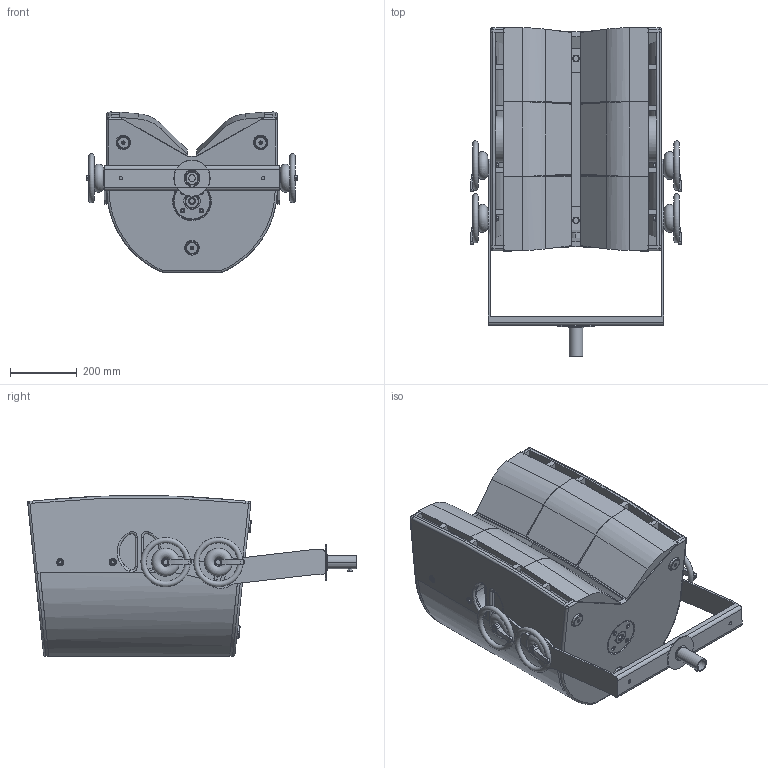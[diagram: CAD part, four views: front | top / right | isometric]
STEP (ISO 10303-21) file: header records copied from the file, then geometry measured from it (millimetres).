
FILE_DESCRIPTION (( 'STEP AP203' ), '1' );
FILE_NAME ('G3_Bracket-ver_01.STEP', '2012-10-16T11:20:23', ( 'Fabian' ), ( '' ), 'SwSTEP 2.0', 'SolidWorks 2009', '' );
FILE_SCHEMA (( 'CONFIG_CONTROL_DESIGN' ));
Products named in the file (31): G3_Bracket-ver_01; Imported88; Imported89; Imported95; Imported94; Imported96; Imported101; Imported102; Imported107; Imported108; Imported109; G3_Bracket-ver; Imported85; Imported86; Imported87; Imported90; Imported91; Imported92; Imported93; Imported97; Imported98; Imported99; Imported100; Imported103; Imported104; Imported105; Imported106; Imported110; Imported111; Imported112; Imported113
Assembly tree (30 placements, depth 3):
  G3_Bracket-ver_01
    G3_Bracket-ver
      Imported92
      Imported112
      Imported100
      Imported89
      Imported99
      Imported86
      Imported88
      Imported90
      Imported97
      Imported104
      Imported95
      Imported113
      Imported102
      Imported101
      Imported107
      Imported109
      Imported110
      Imported87
      Imported108
      Imported111
      Imported94
      Imported105
      Imported93
      Imported96
      Imported98
      Imported103
      Imported106
      Imported85
      Imported91
Bounding box: 633.25 x 986.96 x 482.84 mm (x, y, z)
Volume: 8781531.7 mm3; surface area: 4375245 mm2
Topology: 36 solids, 39 shells, 1114 faces, 2887 edges, 1868 vertices
Faces by surface type: plane 423, cylinder 413, cone 158, torus 106, bspline 8, sphere 6
Entity records: 52339 total; most frequent: CARTESIAN_POINT 22197, ORIENTED_EDGE 5702, DIRECTION 5483, EDGE_CURVE 2853, AXIS2_PLACEMENT_3D 2079, VERTEX_POINT 1851, VECTOR 1325, LINE 1325
